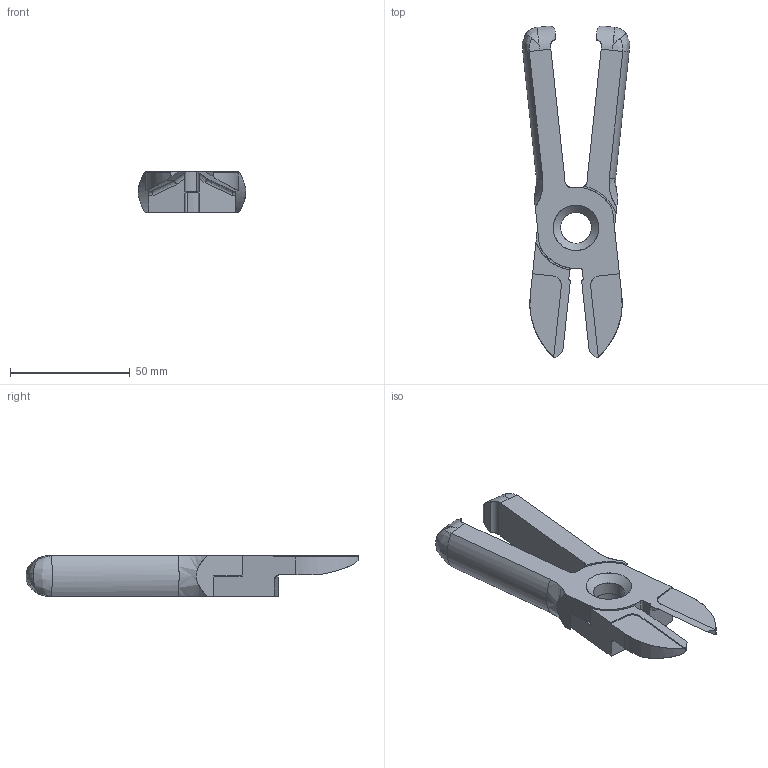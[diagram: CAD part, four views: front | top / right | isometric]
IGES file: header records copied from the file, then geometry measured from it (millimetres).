
Global section: file name: \\Kikaku_server01\kikaku\; native system: Rhinoceros ( Feb 22 2008 ); preprocessor: Trout Lake IGES 012 Feb 22 2008; date: 081001.041113; units: millimetre
Bounding box: 44.94 x 138.69 x 17 mm (x, y, z)
Surface area: 17116.2 mm2 (no closed solid volume)
Topology: 0 solids, 0 shells, 88 faces, 588 edges, 584 vertices
Faces by surface type: bspline 88
